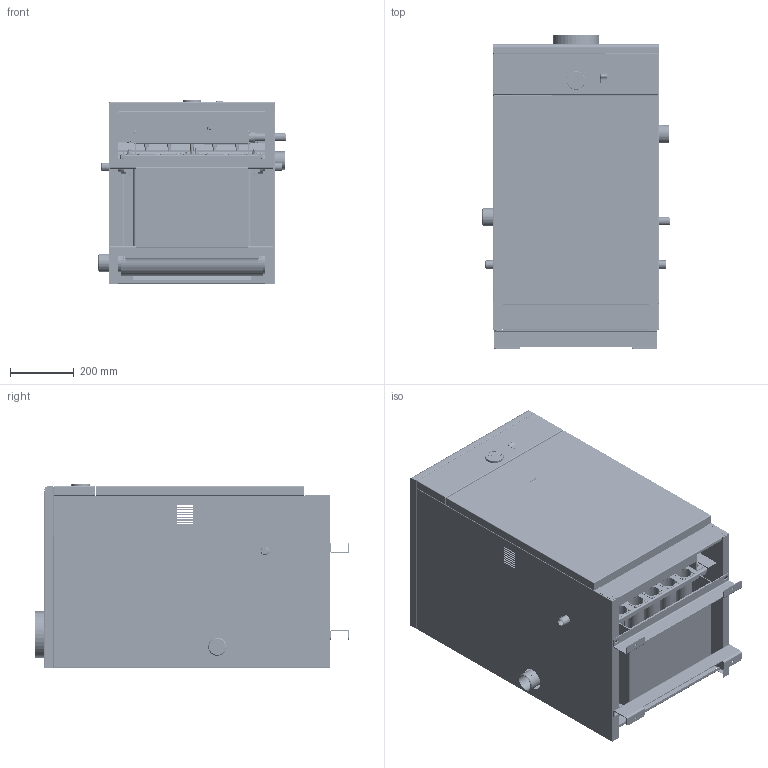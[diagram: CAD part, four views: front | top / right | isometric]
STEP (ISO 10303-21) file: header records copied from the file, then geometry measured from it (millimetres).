
FILE_DESCRIPTION(('STEP AP242'), '1');
FILE_NAME('ﾒﾈﾒﾀﾍ 2016', '', ('UNSPECIFIED'), ('UNSPECIFIED'), 'ASCON STEP Converter 1.6', 'ASCON Math Kernel', '');
FILE_SCHEMA(('AP242_MANAGED_MODEL_BASED_3D_ENGINEERING_MIM_LF { 1 0 10303 442 1 1 4 }'));
Length unit declared in the file: millimetre
Products named in the file (85): КЕВМ.3106.00.00.000-13; -03; КЕВМ.3103.01.01.002-03; КЕВМ.3101.05.00.001; КЕВМ.3103.01.02.003-03; КЕВМ.3103.01.02.004-01; КЕВМ.3101.05.00.007; -01; Заглушка Ду15; Клапан манометра 1_2'''' х 1_4''''; Колба защитная; Кран маевского; Заглушка Ду50; КЕВМ.3106.01.00.000-23; ГТП.573.01.00.001-03; КЕВМ.3106.01.00.002-03; -02; КЕВМ.3106.01.01.000-13; КЕВМ.3106.01.01.001-13; КЕВМ.3105.02.01.002; КЕВМ.3105.03.01.014; КЕВМ.3106.01.00.003-12; САБК-ТР 02.00.000-05; КЕВМ.3106.01.00.003-02; КЕВМ.3106.01.00.002-13; -112; КЕВМ.3106.00.00.001; КЕВМ.3106.00.00.001-01; -12; КЕВМ.3106.00.00.004-03; КЕВМ.3106.00.00.005-03; Лампочка аварии; Переключатель; Предохранитель; Кнопка сброса аварии 1А 125V.AC; Переключатель зима-лето switronic 6A 250V AC; Термостат аварийный IMIT; Колпачек термостата; Реле TR91F-220VAC-SC-C (1пер,220V,40А,240VAC); Значек 4А 10х10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
Assembly tree (136 placements, depth 4):
  КЕВМ.3106.00.00.000-13
    -03
      -03
      -03
        -03
        КЕВМ.3103.01.01.002-03  x2
      -03
        -03
        (unnamed)
        КЕВМ.3101.05.00.001
        -03
        -03
        КЕВМ.3103.01.02.003-03
        КЕВМ.3103.01.02.004-01
        КЕВМ.3101.05.00.007
      -03
      -03
      (unnamed)
      -01
      Заглушка Ду15
      Клапан манометра 1_2'''' х 1_4''''
      Колба защитная
      Кран маевского
      Заглушка Ду50  x2
      (unnamed)  x2
      (unnamed)  x2
      (unnamed)  x4
    КЕВМ.3106.01.00.000-23
      ГТП.573.01.00.001-03
      КЕВМ.3106.01.00.002-03
      (unnamed)
      (unnamed)
      (unnamed)  x2
      (unnamed)  x2
      (unnamed)  x2
      (unnamed)
      (unnamed)
      (unnamed)  x4
      -02  x5
      (unnamed)  x20
      КЕВМ.3106.01.01.000-13
        КЕВМ.3106.01.01.001-13
        КЕВМ.3105.02.01.002  x2
        КЕВМ.3105.03.01.014  x2
        КЕВМ.3106.01.00.003-12
        -01  x5
        (unnamed)  x8
      (unnamed)
      САБК-ТР 02.00.000-05
      КЕВМ.3106.01.00.003-02
      КЕВМ.3106.01.00.002-13
    (unnamed)  x2
    -112
      КЕВМ.3106.00.00.001
      КЕВМ.3106.00.00.001-01
      -01
      -12
      КЕВМ.3106.00.00.004-03
      КЕВМ.3106.00.00.005-03
      -03
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Bounding box: 585.5 x 986 x 577.6 mm (x, y, z)
Volume: 61195588.1 mm3; surface area: 10568833.6 mm2
Topology: 144 solids, 148 shells, 7746 faces, 20557 edges, 13447 vertices
Faces by surface type: plane 4445, cylinder 2640, bspline 417, cone 101, extrusion 72, torus 47, sphere 24
Full cylindrical faces by diameter (mm): 0.6 x1, 0.7 x660, 1.9 x4, 2 x1, 2.5 x1, 2.8 x5, 3 x44, 3.1 x1, 3.2 x24, 3.5 x4, 4 x41, 4.2 x20, 4.5 x10, 5 x25, 6 x6, 6.2 x1, 6.6 x1, 6.647 x4, 6.7 x2, 6.917 x5, 7 x2, 7.1 x1, 8 x26, 8.4 x1, 8.5 x4, 8.917 x6, 9 x8, 9.8 x1, 10 x42, 10.5 x3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
Entity records: 238213 total; most frequent: CARTESIAN_POINT 90704, ORIENTED_EDGE 25107, DIRECTION 23221, EDGE_CURVE 12558, VECTOR 8623, LINE 8551, VERTEX_POINT 8426, AXIS2_PLACEMENT_3D 7299
